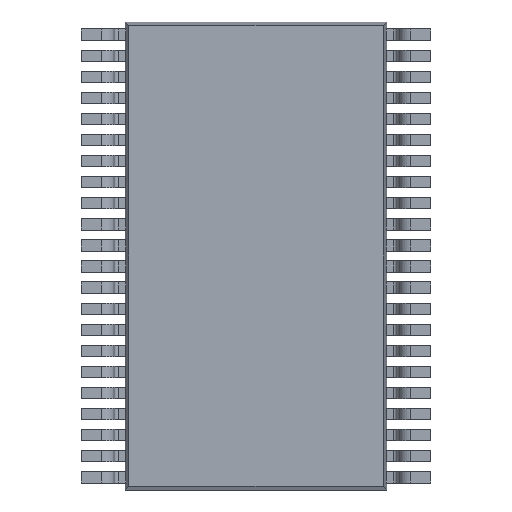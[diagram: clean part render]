
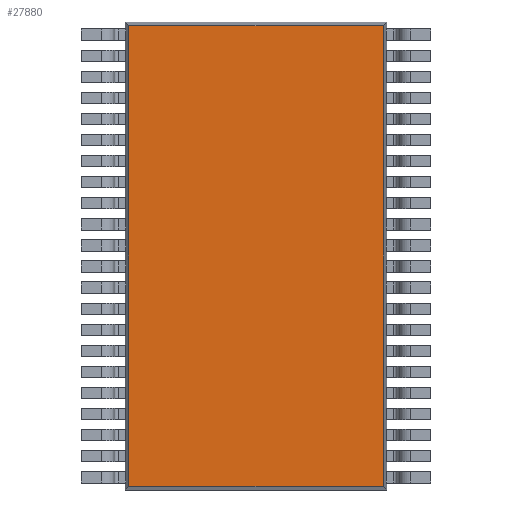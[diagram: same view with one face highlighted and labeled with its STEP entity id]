
A CAD part, front view. The second image highlights one B-rep face of the part: STEP entity #27880.
In plain terms, the highlighted planar face has unit normal (0, -1, 0).
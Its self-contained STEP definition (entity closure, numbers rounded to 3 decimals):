
#7425 = AXIS2_PLACEMENT_3D ( 'NONE', #23979, #23983, #23984 ) ;
#10346 = VECTOR ( 'NONE', #22071, 1000. ) ;
#10350 = VECTOR ( 'NONE', #22068, 1000. ) ;
#10355 = LINE ( 'NONE', #22067, #10350 ) ;
#10359 = LINE ( 'NONE', #22052, #10346 ) ;
#10520 = VECTOR ( 'NONE', #21923, 1000. ) ;
#10581 = LINE ( 'NONE', #21910, #10520 ) ;
#11192 = VECTOR ( 'NONE', #28144, 1000. ) ;
#11195 = LINE ( 'NONE', #28153, #11192 ) ;
#13007 = FACE_OUTER_BOUND ( 'NONE', #16418, .T. ) ;
#14299 = CARTESIAN_POINT ( 'NONE',  ( -3.016, 0.1, 5.466 ) ) ;
#15860 = ORIENTED_EDGE ( 'NONE', *, *, #25137, .T. ) ;
#15862 = ORIENTED_EDGE ( 'NONE', *, *, #25659, .T. ) ;
#15865 = ORIENTED_EDGE ( 'NONE', *, *, #25587, .T. ) ;
#15867 = ORIENTED_EDGE ( 'NONE', *, *, #25657, .T. ) ;
#16418 = EDGE_LOOP ( 'NONE', ( #15860, #15862, #15865, #15867 ) ) ;
#17297 = VERTEX_POINT ( 'NONE', #18484 ) ;
#17313 = VERTEX_POINT ( 'NONE', #18454 ) ;
#17329 = VERTEX_POINT ( 'NONE', #18428 ) ;
#18428 = CARTESIAN_POINT ( 'NONE',  ( 3.016, 0.1, 5.466 ) ) ;
#18454 = CARTESIAN_POINT ( 'NONE',  ( 3.016, 0.1, -5.466 ) ) ;
#18484 = CARTESIAN_POINT ( 'NONE',  ( -3.016, 0.1, -5.466 ) ) ;
#20528 = VERTEX_POINT ( 'NONE', #14299 ) ;
#21910 = CARTESIAN_POINT ( 'NONE',  ( 3.016, 0.1, 5.55 ) ) ;
#21923 = DIRECTION ( 'NONE',  ( 0., 0., 1. ) ) ;
#22052 = CARTESIAN_POINT ( 'NONE',  ( 3.1, 0.1, -5.466 ) ) ;
#22067 = CARTESIAN_POINT ( 'NONE',  ( 3.1, 0.1, 5.466 ) ) ;
#22068 = DIRECTION ( 'NONE',  ( -1., 0., 0. ) ) ;
#22071 = DIRECTION ( 'NONE',  ( 1., 0., 0. ) ) ;
#23977 = PLANE ( 'NONE',  #7425 ) ;
#23979 = CARTESIAN_POINT ( 'NONE',  ( 0., 0.1, 0. ) ) ;
#23983 = DIRECTION ( 'NONE',  ( 0., 1., 0. ) ) ;
#23984 = DIRECTION ( 'NONE',  ( 0., 0., 1. ) ) ;
#25137 = EDGE_CURVE ( 'NONE', #20528, #17297, #11195, .T. ) ;
#25587 = EDGE_CURVE ( 'NONE', #17313, #17329, #10581, .T. ) ;
#25657 = EDGE_CURVE ( 'NONE', #17329, #20528, #10355, .T. ) ;
#25659 = EDGE_CURVE ( 'NONE', #17297, #17313, #10359, .T. ) ;
#27880 = ADVANCED_FACE ( 'NONE', ( #13007 ), #23977, .F. ) ;
#28144 = DIRECTION ( 'NONE',  ( 0., 0., -1. ) ) ;
#28153 = CARTESIAN_POINT ( 'NONE',  ( -3.016, 0.1, 5.55 ) ) ;
